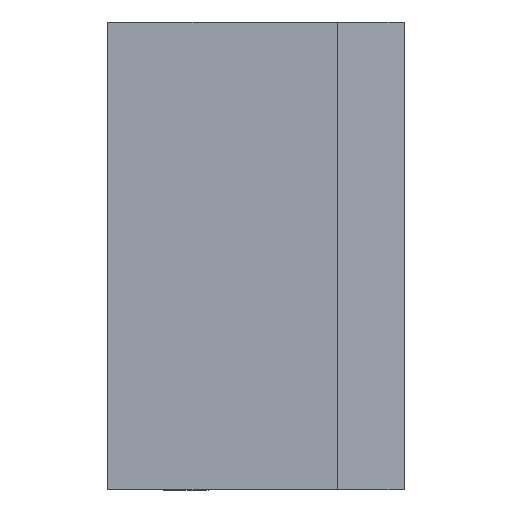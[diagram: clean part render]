
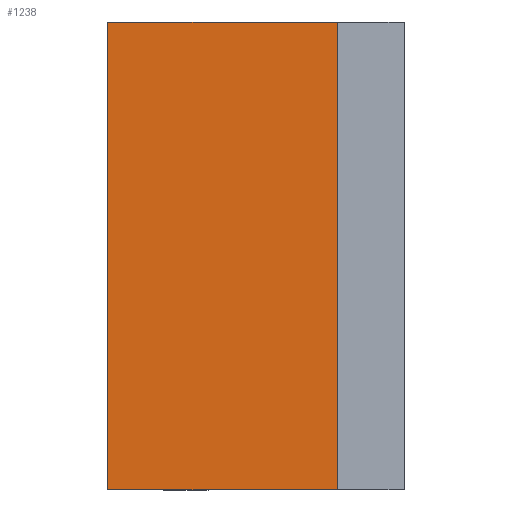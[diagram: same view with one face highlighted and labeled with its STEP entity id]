
A CAD part, left-side view. The second image highlights one B-rep face of the part: STEP entity #1238.
In plain terms, the highlighted planar face has unit normal (-1, 0, 0).
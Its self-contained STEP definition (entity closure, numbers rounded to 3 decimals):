
#21 = EDGE_CURVE ( 'NONE', #2619, #2255, #829, .T. ) ;
#115 = LINE ( 'NONE', #404, #911 ) ;
#245 = DIRECTION ( 'NONE',  ( 0., 1., 0. ) ) ;
#263 = VECTOR ( 'NONE', #1791, 1000. ) ;
#404 = CARTESIAN_POINT ( 'NONE',  ( -220., 0., 0. ) ) ;
#424 = EDGE_CURVE ( 'NONE', #2619, #2408, #3124, .T. ) ;
#559 = ORIENTED_EDGE ( 'NONE', *, *, #424, .T. ) ;
#769 = CARTESIAN_POINT ( 'NONE',  ( -220., 66.5, 0. ) ) ;
#791 = CARTESIAN_POINT ( 'NONE',  ( -220., 0., 210. ) ) ;
#829 = LINE ( 'NONE', #1825, #263 ) ;
#891 = CARTESIAN_POINT ( 'NONE',  ( -220., -36.5, 210. ) ) ;
#911 = VECTOR ( 'NONE', #2177, 1000. ) ;
#965 = AXIS2_PLACEMENT_3D ( 'NONE', #791, #3016, #245 ) ;
#987 = EDGE_LOOP ( 'NONE', ( #2147, #3086, #3007, #559 ) ) ;
#1160 = DIRECTION ( 'NONE',  ( 0., 0., -1. ) ) ;
#1238 = ADVANCED_FACE ( 'NONE', ( #2521 ), #2537, .F. ) ;
#1328 = CARTESIAN_POINT ( 'NONE',  ( -220., -36.5, 0. ) ) ;
#1331 = VECTOR ( 'NONE', #1887, 1000. ) ;
#1396 = EDGE_CURVE ( 'NONE', #2408, #2870, #115, .T. ) ;
#1398 = CARTESIAN_POINT ( 'NONE',  ( -220., 66.5, 210. ) ) ;
#1590 = CARTESIAN_POINT ( 'NONE',  ( -220., 66.5, 210. ) ) ;
#1625 = EDGE_CURVE ( 'NONE', #2255, #2870, #1871, .T. ) ;
#1674 = VECTOR ( 'NONE', #1160, 1000. ) ;
#1791 = DIRECTION ( 'NONE',  ( 0., -1., 0. ) ) ;
#1825 = CARTESIAN_POINT ( 'NONE',  ( -220., 0., 210. ) ) ;
#1871 = LINE ( 'NONE', #891, #1331 ) ;
#1887 = DIRECTION ( 'NONE',  ( 0., 0., -1. ) ) ;
#2147 = ORIENTED_EDGE ( 'NONE', *, *, #1396, .T. ) ;
#2177 = DIRECTION ( 'NONE',  ( 0., -1., 0. ) ) ;
#2255 = VERTEX_POINT ( 'NONE', #2701 ) ;
#2408 = VERTEX_POINT ( 'NONE', #769 ) ;
#2521 = FACE_OUTER_BOUND ( 'NONE', #987, .T. ) ;
#2537 = PLANE ( 'NONE',  #965 ) ;
#2619 = VERTEX_POINT ( 'NONE', #1590 ) ;
#2701 = CARTESIAN_POINT ( 'NONE',  ( -220., -36.5, 210. ) ) ;
#2870 = VERTEX_POINT ( 'NONE', #1328 ) ;
#3007 = ORIENTED_EDGE ( 'NONE', *, *, #21, .F. ) ;
#3016 = DIRECTION ( 'NONE',  ( 1., 0., 0. ) ) ;
#3086 = ORIENTED_EDGE ( 'NONE', *, *, #1625, .F. ) ;
#3124 = LINE ( 'NONE', #1398, #1674 ) ;
